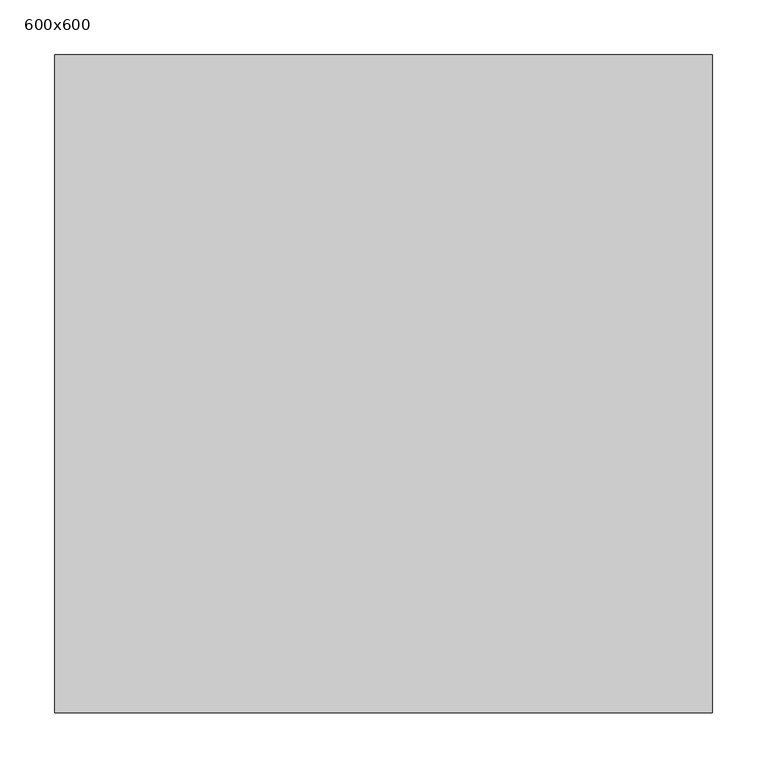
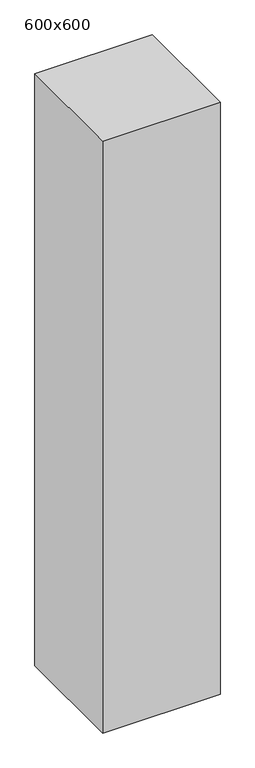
"""IFC4 building model written with IfcOpenShell, lengths in millimetres: column geometry, 混凝土 - 矩形 - 柱 : 600x600."""

from ifc_helpers import new_model, si_unit, origin, origin_with_axes, place, context, project, spatial, polyline, outline, extrude, source, transform, mapped, element, save


def column_600x600_b4176fad(model_context):
    return source(origin(), model_context, "Body", "SweptSolid", [
        extrude(outline(polyline([(300.0, 300.0), (300.0, -300.0), (-300.0, -300.0), (-300.0, 300.0), (300.0, 300.0)])), origin_with_axes(), (0.0, 0.0, 1.0), 3200.0),
    ])


if __name__ == "__main__":
    model = new_model("IFC4")
    model_context = context("Model", 3, world=origin())
    ifc_project = project(units=[si_unit("LENGTHUNIT", "METRE", prefix="MILLI")], contexts=[model_context])
    site = spatial("IfcSite", under=ifc_project)
    building = spatial("IfcBuilding", under=site)
    placement = place(None, origin())
    column_600x600_shape = column_600x600_b4176fad(model_context)
    element("IfcColumn", 1, ObjectType="混凝土 - 矩形 - 柱 : 600x600", at=placement, inside=building, context=model_context, shape_type="MappedRepresentation", body=[
        mapped(column_600x600_shape, transform((0.0, 0.0, 0.0), x_axis=(1.0, 0.0, 0.0), y_axis=(0.0, 1.0, 0.0), z_axis=(0.0, 0.0, 1.0))),
    ])
    save(model, "model.ifc")
